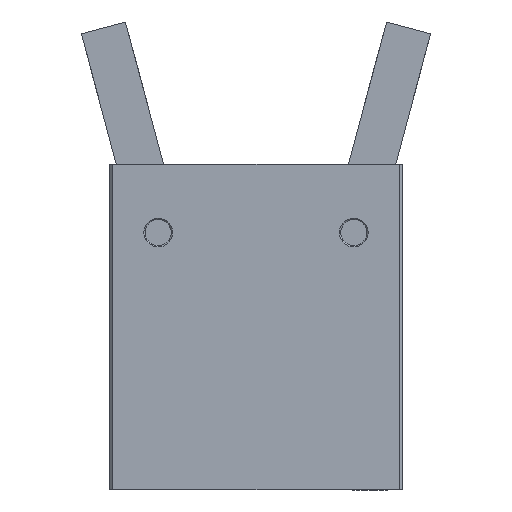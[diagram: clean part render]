
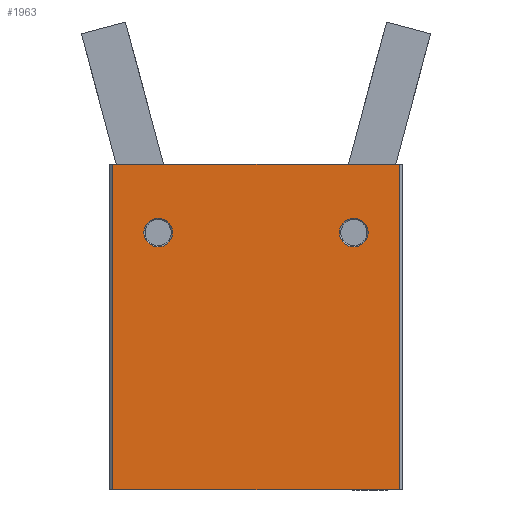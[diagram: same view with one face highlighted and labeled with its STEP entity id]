
A CAD part, front view. The second image highlights one B-rep face of the part: STEP entity #1963.
In plain terms, the highlighted planar face has unit normal (0, -1, 0).
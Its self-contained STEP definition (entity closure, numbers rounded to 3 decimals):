
#564 = FACE_BOUND ( 'NONE', #958, .T. ) ;
#565 = FACE_BOUND ( 'NONE', #959, .T. ) ;
#566 = FACE_OUTER_BOUND ( 'NONE', #960, .T. ) ;
#700 = CIRCLE ( 'NONE', #7082, 2.2 ) ;
#708 = CIRCLE ( 'NONE', #7086, 2.2 ) ;
#958 = EDGE_LOOP ( 'NONE', ( #3965, #3964 ) ) ;
#959 = EDGE_LOOP ( 'NONE', ( #3963, #3962 ) ) ;
#960 = EDGE_LOOP ( 'NONE', ( #3961, #3960, #3959, #3958 ) ) ;
#1595 = AXIS2_PLACEMENT_3D ( 'NONE', #2168, #2167, #2165 ) ;
#1963 = ADVANCED_FACE ( 'NONE', ( #564, #565, #566 ), #2170, .T. ) ;
#2165 = DIRECTION ( 'NONE',  ( 0., 0., -1. ) ) ;
#2167 = DIRECTION ( 'NONE',  ( 0., -1., 0. ) ) ;
#2168 = CARTESIAN_POINT ( 'NONE',  ( -22.5, -13., 19.5 ) ) ;
#2170 = PLANE ( 'NONE',  #1595 ) ;
#2984 = EDGE_CURVE ( 'NONE', #6796, #6820, #700, .T. ) ;
#2990 = EDGE_CURVE ( 'NONE', #6778, #6849, #708, .T. ) ;
#3958 = ORIENTED_EDGE ( 'NONE', *, *, #7248, .T. ) ;
#3959 = ORIENTED_EDGE ( 'NONE', *, *, #7245, .T. ) ;
#3960 = ORIENTED_EDGE ( 'NONE', *, *, #7251, .T. ) ;
#3961 = ORIENTED_EDGE ( 'NONE', *, *, #7250, .T. ) ;
#3962 = ORIENTED_EDGE ( 'NONE', *, *, #7252, .T. ) ;
#3963 = ORIENTED_EDGE ( 'NONE', *, *, #2984, .T. ) ;
#3964 = ORIENTED_EDGE ( 'NONE', *, *, #7253, .T. ) ;
#3965 = ORIENTED_EDGE ( 'NONE', *, *, #2990, .T. ) ;
#4462 = CARTESIAN_POINT ( 'NONE',  ( -15., -13., 9. ) ) ;
#4503 = DIRECTION ( 'NONE',  ( 0., 1., 0. ) ) ;
#4547 = CARTESIAN_POINT ( 'NONE',  ( 12.8, -13., 9. ) ) ;
#4663 = CARTESIAN_POINT ( 'NONE',  ( -15., -13., 11.2 ) ) ;
#4715 = CARTESIAN_POINT ( 'NONE',  ( -15., -13., 6.8 ) ) ;
#4754 = CARTESIAN_POINT ( 'NONE',  ( 17.2, -13., 9. ) ) ;
#4832 = DIRECTION ( 'NONE',  ( 1., 0., 0. ) ) ;
#4833 = DIRECTION ( 'NONE',  ( 0., 1., 0. ) ) ;
#4835 = CARTESIAN_POINT ( 'NONE',  ( 15., -13., 9. ) ) ;
#4836 = DIRECTION ( 'NONE',  ( 0., 0., -1. ) ) ;
#4837 = DIRECTION ( 'NONE',  ( 0., 1., 0. ) ) ;
#4838 = CARTESIAN_POINT ( 'NONE',  ( -15., -13., 9. ) ) ;
#4839 = DIRECTION ( 'NONE',  ( 1., 0., 0. ) ) ;
#4840 = CARTESIAN_POINT ( 'NONE',  ( -22.5, -13., -30.5 ) ) ;
#4841 = DIRECTION ( 'NONE',  ( 0., 0., -1. ) ) ;
#4842 = CARTESIAN_POINT ( 'NONE',  ( -22., -13., 19.5 ) ) ;
#4843 = CARTESIAN_POINT ( 'NONE',  ( -22., -13., 19.5 ) ) ;
#4848 = DIRECTION ( 'NONE',  ( -1., 0., 0. ) ) ;
#4849 = CARTESIAN_POINT ( 'NONE',  ( -22.5, -13., 19.5 ) ) ;
#4856 = DIRECTION ( 'NONE',  ( 0., 0., 1. ) ) ;
#4857 = CARTESIAN_POINT ( 'NONE',  ( 22., -13., 19.5 ) ) ;
#4946 = CARTESIAN_POINT ( 'NONE',  ( 15., -13., 9. ) ) ;
#4948 = DIRECTION ( 'NONE',  ( 0., 1., 0. ) ) ;
#4950 = DIRECTION ( 'NONE',  ( 1., 0., 0. ) ) ;
#5156 = CARTESIAN_POINT ( 'NONE',  ( -22., -13., -30.5 ) ) ;
#5173 = CARTESIAN_POINT ( 'NONE',  ( 22., -13., 19.5 ) ) ;
#5222 = CARTESIAN_POINT ( 'NONE',  ( 22., -13., -30.5 ) ) ;
#5457 = DIRECTION ( 'NONE',  ( 0., 0., -1. ) ) ;
#6340 = VERTEX_POINT ( 'NONE', #5222 ) ;
#6457 = VERTEX_POINT ( 'NONE', #5173 ) ;
#6499 = VERTEX_POINT ( 'NONE', #5156 ) ;
#6587 = VERTEX_POINT ( 'NONE', #4843 ) ;
#6778 = VERTEX_POINT ( 'NONE', #4754 ) ;
#6796 = VERTEX_POINT ( 'NONE', #4715 ) ;
#6820 = VERTEX_POINT ( 'NONE', #4663 ) ;
#6849 = VERTEX_POINT ( 'NONE', #4547 ) ;
#7082 = AXIS2_PLACEMENT_3D ( 'NONE', #4462, #4503, #5457 ) ;
#7086 = AXIS2_PLACEMENT_3D ( 'NONE', #4946, #4948, #4950 ) ;
#7133 = AXIS2_PLACEMENT_3D ( 'NONE', #4838, #4837, #4836 ) ;
#7134 = AXIS2_PLACEMENT_3D ( 'NONE', #4835, #4833, #4832 ) ;
#7245 = EDGE_CURVE ( 'NONE', #6340, #6457, #7683, .T. ) ;
#7248 = EDGE_CURVE ( 'NONE', #6457, #6587, #7695, .T. ) ;
#7250 = EDGE_CURVE ( 'NONE', #6587, #6499, #7703, .T. ) ;
#7251 = EDGE_CURVE ( 'NONE', #6499, #6340, #7707, .T. ) ;
#7252 = EDGE_CURVE ( 'NONE', #6820, #6796, #7713, .T. ) ;
#7253 = EDGE_CURVE ( 'NONE', #6849, #6778, #7717, .T. ) ;
#7683 = LINE ( 'NONE', #4857, #7685 ) ;
#7685 = VECTOR ( 'NONE', #4856, 1000. ) ;
#7695 = LINE ( 'NONE', #4849, #7697 ) ;
#7697 = VECTOR ( 'NONE', #4848, 1000. ) ;
#7703 = LINE ( 'NONE', #4842, #7705 ) ;
#7705 = VECTOR ( 'NONE', #4841, 1000. ) ;
#7707 = LINE ( 'NONE', #4840, #7709 ) ;
#7709 = VECTOR ( 'NONE', #4839, 1000. ) ;
#7713 = CIRCLE ( 'NONE', #7133, 2.2 ) ;
#7717 = CIRCLE ( 'NONE', #7134, 2.2 ) ;
